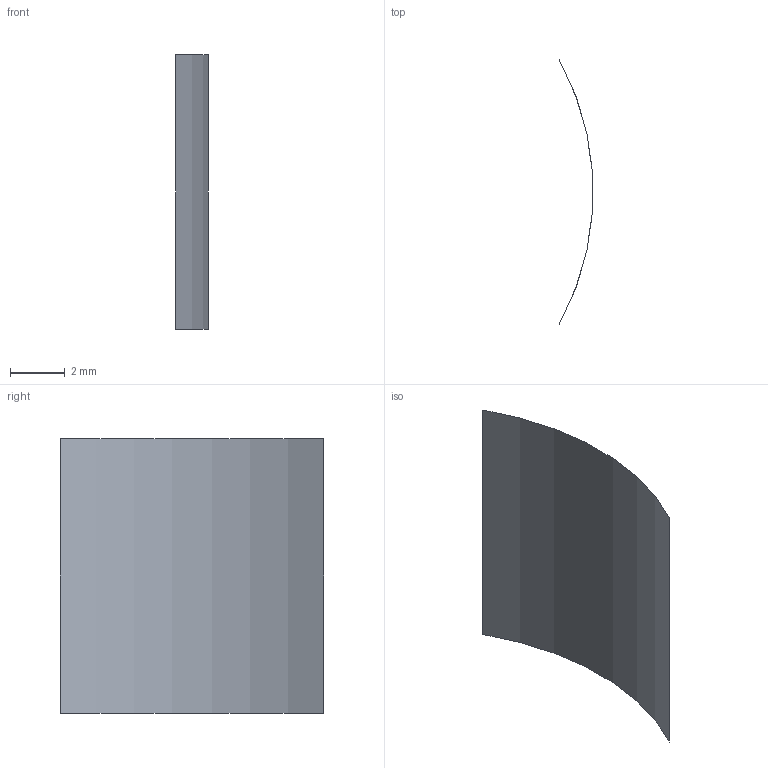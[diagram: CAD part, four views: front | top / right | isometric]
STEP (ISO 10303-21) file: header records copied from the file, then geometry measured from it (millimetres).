
FILE_DESCRIPTION(('BRL-CAD AP203 closed-profile extrusion seam fixture'),'2;1');
FILE_NAME('ap203_extruded_closed_profile_seam.stp','2026-07-26T00:00:00',('BRL-CAD'),('BRL-CAD'),'','','');
FILE_SCHEMA(('CONFIG_CONTROL_DESIGN'));
Length unit declared in the file: millimetre
Products named in the file (1): extruded_closed_profile_seam
Bounding box: 1.2 x 9.59 x 10 mm (x, y, z)
Surface area: 100 mm2 (no closed solid volume)
Topology: 0 solids, 1 shells, 1 faces, 4 edges, 4 vertices
Faces by surface type: extrusion 1
Entity records: 48 total; most frequent: CARTESIAN_POINT 6, VERTEX_POINT 4, EDGE_CURVE 4, ORIENTED_EDGE 4, CIRCLE 3, DIRECTION 2, AXIS2_PLACEMENT_3D 2, LINE 2
